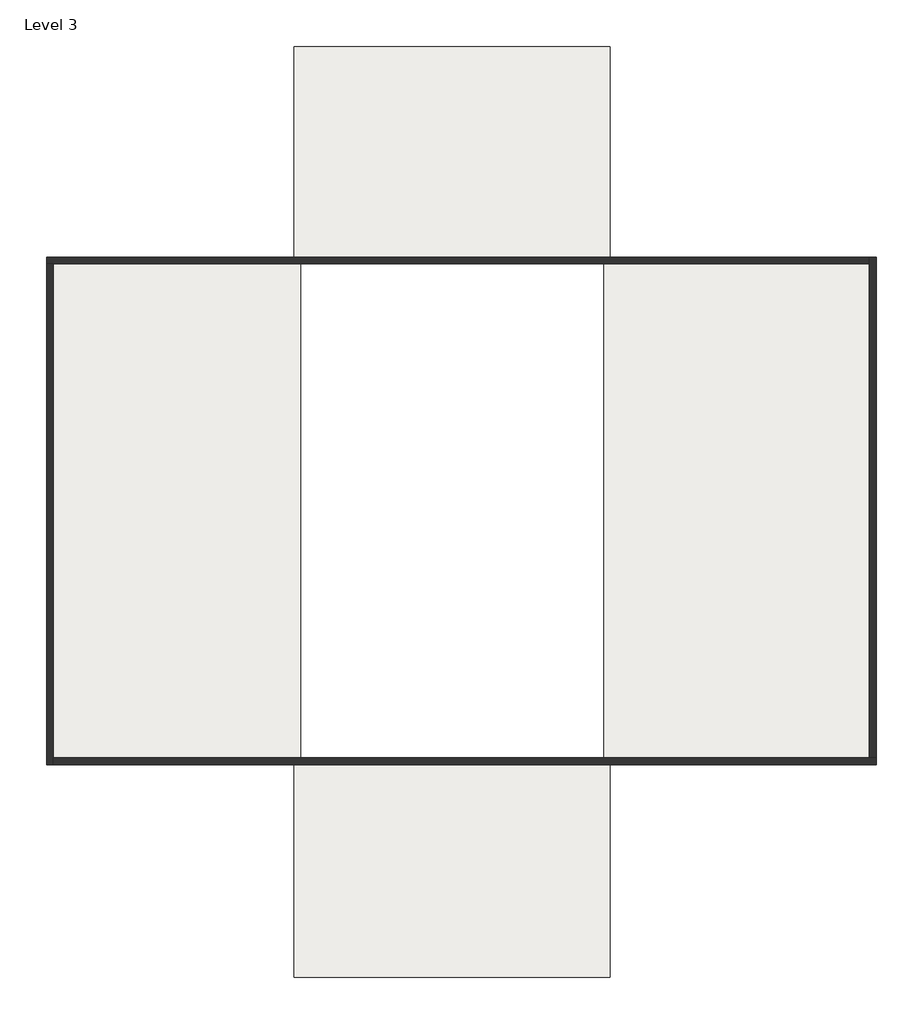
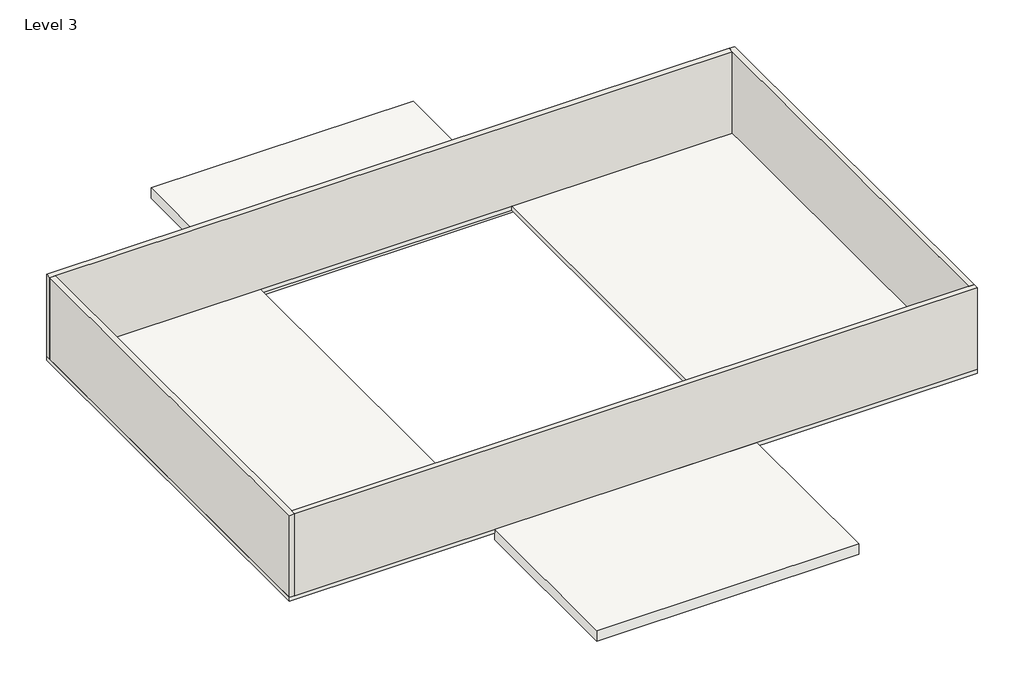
# One storey: 4 walls, 2 roofs, 1 slab.
"""IFC4 building model written with IfcOpenShell, lengths in millimetres."""

from ifc_helpers import new_model, si_unit, frame, origin, place, context, project, spatial, polyline, outline, extrude, faceted_brep, element, save

model = new_model("IFC4")

# Units and contexts
model_context = context("Model", 3, world=origin())
ifc_project = project(units=[si_unit("LENGTHUNIT", "METRE", prefix="MILLI")], contexts=[model_context])

# Site, building, storey
site = spatial("IfcSite", under=ifc_project)
building = spatial("IfcBuilding", under=site)
storey = spatial("IfcBuildingStorey", under=building, Name="Level 3", Elevation=7300.0)

# Roofs
placement = place(None, origin())
element("IfcRoof", 1, ObjectType="Generic - 400mm", at=placement, inside=storey, context=model_context, shape_type="SweptSolid", body=[
    extrude(outline(polyline([(-4715.9836021, 17166.2116338), (4684.0163979, 17166.2116338), (4684.0163979, 10900.7445405), (-4715.9836021, 10900.7445405), (-4715.9836021, 17166.2116338)])), frame((0.0, 0.0, 6900.0), z_axis=(0.0, 0.0, 1.0), x_axis=(1.0, 0.0, 0.0)), (0.0, 0.0, 1.0), 400.0),
])
element("IfcRoof", 2, ObjectType="Generic - 400mm", at=placement, inside=storey, context=model_context, shape_type="SweptSolid", body=[
    extrude(outline(polyline([(4684.0163979, -10533.7883662), (-4715.9836021, -10533.7883662), (-4715.9836021, -4199.2554595), (4684.0163979, -4199.2554595), (4684.0163979, -10533.7883662)])), frame((0.0, 0.0, 6900.0), z_axis=(0.0, 0.0, 1.0), x_axis=(1.0, 0.0, 0.0)), (0.0, 0.0, 1.0), 400.0),
])

# Slab
element("IfcSlab", 3, ObjectType="Generic 150mm", at=placement, inside=storey, context=model_context, shape_type="SweptSolid", body=[
    extrude(outline(polyline([(12608.2133641, 10900.7445405), (12608.2133641, -4199.2554595), (-12091.7866359, -4199.2554595), (-12091.7866359, 10900.7445405), (12608.2133641, 10900.7445405)]), holes=[polyline([(4484.0163979, 10700.7445405), (-4515.9836021, 10700.7445405), (-4515.9836021, -3999.2554595), (4484.0163979, -3999.2554595), (4484.0163979, 10700.7445405)])]), frame((0.0, 0.0, 7150.0), z_axis=(0.0, 0.0, 1.0), x_axis=(1.0, 0.0, 0.0)), (0.0, 0.0, 1.0), 150.0),
])

# Walls
element("IfcWall", 4, ObjectType="Generic - 200mm", at=placement, inside=storey, context=model_context, shape_type="Brep", body=[
    faceted_brep([(-12091.7866359, 10700.7445405, 7300.0), (-11891.7866359, 10700.7445405, 7300.0), (12408.2133641, 10700.7445405, 7300.0), (12408.2133641, 10700.7445405, 10400.0), (-11891.7866359, 10700.7445405, 10400.0), (-12091.7866359, 10700.7445405, 10400.0), (-12091.7866359, 10900.7445405, 7300.0), (-12091.7866359, 10900.7445405, 10400.0), (12408.2133641, 10900.7445405, 10400.0), (12408.2133641, 10900.7445405, 7300.0)], [[[0, 1, 2, 3, 4, 5]], [[6, 7, 8, 9]], [[2, 1, 0, 6, 9]], [[5, 4, 3, 8, 7]], [[0, 5, 7, 6]], [[3, 2, 9, 8]]]),
])
element("IfcWall", 5, ObjectType="Generic - 200mm", at=placement, inside=storey, context=model_context, shape_type="Brep", body=[
    faceted_brep([(-11891.7866359, -4199.2554595, 7300.0), (-11891.7866359, -3999.2554595, 7300.0), (-11891.7866359, 10700.7445405, 7300.0), (-11891.7866359, 10700.7445405, 10400.0), (-11891.7866359, -3999.2554595, 10400.0), (-11891.7866359, -4199.2554595, 10400.0), (-12091.7866359, -4199.2554595, 7300.0), (-12091.7866359, -4199.2554595, 10400.0), (-12091.7866359, 10700.7445405, 10400.0), (-12091.7866359, 10700.7445405, 7300.0)], [[[0, 1, 2, 3, 4, 5]], [[6, 7, 8, 9]], [[2, 1, 0, 6, 9]], [[5, 4, 3, 8, 7]], [[0, 5, 7, 6]], [[3, 2, 9, 8]]]),
])
element("IfcWall", 6, ObjectType="Generic - 200mm", at=placement, inside=storey, context=model_context, shape_type="Brep", body=[
    faceted_brep([(12608.2133641, -3999.2554595, 7300.0), (12408.2133641, -3999.2554595, 7300.0), (-11891.7866359, -3999.2554595, 7300.0), (-11891.7866359, -3999.2554595, 10400.0), (12408.2133641, -3999.2554595, 10400.0), (12608.2133641, -3999.2554595, 10400.0), (12608.2133641, -4199.2554595, 7300.0), (12608.2133641, -4199.2554595, 10400.0), (-11891.7866359, -4199.2554595, 10400.0), (-11891.7866359, -4199.2554595, 7300.0)], [[[0, 1, 2, 3, 4, 5]], [[6, 7, 8, 9]], [[2, 1, 0, 6, 9]], [[5, 4, 3, 8, 7]], [[0, 5, 7, 6]], [[3, 2, 9, 8]]]),
])
element("IfcWall", 7, ObjectType="Generic - 200mm", at=placement, inside=storey, context=model_context, shape_type="Brep", body=[
    faceted_brep([(12408.2133641, 10900.7445405, 7300.0), (12408.2133641, 10700.7445405, 7300.0), (12408.2133641, -3999.2554595, 7300.0), (12408.2133641, -3999.2554595, 10400.0), (12408.2133641, 10700.7445405, 10400.0), (12408.2133641, 10900.7445405, 10400.0), (12608.2133641, 10900.7445405, 7300.0), (12608.2133641, 10900.7445405, 10400.0), (12608.2133641, -3999.2554595, 10400.0), (12608.2133641, -3999.2554595, 7300.0)], [[[0, 1, 2, 3, 4, 5]], [[6, 7, 8, 9]], [[2, 1, 0, 6, 9]], [[5, 4, 3, 8, 7]], [[0, 5, 7, 6]], [[3, 2, 9, 8]]]),
])

save(model, "model.ifc")
